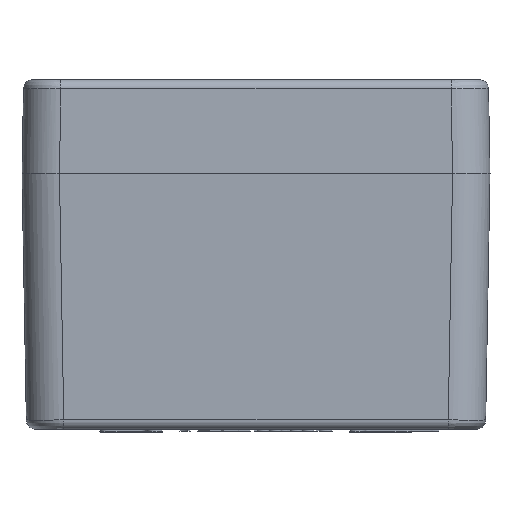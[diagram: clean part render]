
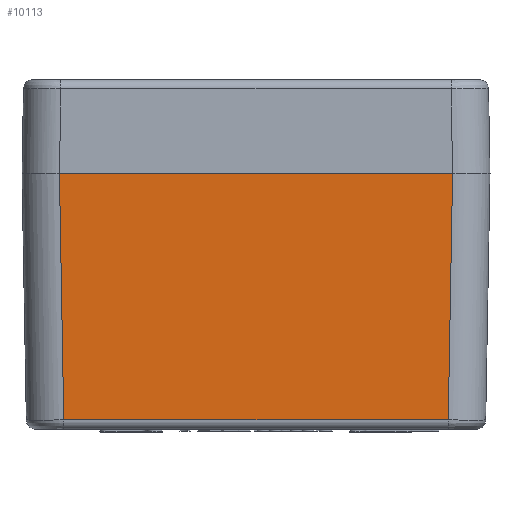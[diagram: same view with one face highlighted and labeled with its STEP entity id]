
A CAD part, left-side view. The second image highlights one B-rep face of the part: STEP entity #10113.
In plain terms, the highlighted planar face has unit normal (-1, 0, -0.018).
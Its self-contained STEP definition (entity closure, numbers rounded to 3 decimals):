
#1122 = DIRECTION ( 'NONE',  ( 0.017, 0.017, -1. ) ) ;
#3788 = VECTOR ( 'NONE', #18735, 1000. ) ;
#4582 = EDGE_CURVE ( 'NONE', #31239, #34014, #24787, .T. ) ;
#7511 = VECTOR ( 'NONE', #21265, 1000. ) ;
#8092 = PLANE ( 'NONE',  #25473 ) ;
#8317 = ORIENTED_EDGE ( 'NONE', *, *, #4582, .F. ) ;
#10113 = ADVANCED_FACE ( 'NONE', ( #38512 ), #8092, .T. ) ;
#11961 = LINE ( 'NONE', #34945, #21239 ) ;
#14149 = EDGE_LOOP ( 'NONE', ( #28052, #27916, #37294, #8317 ) ) ;
#14717 = CARTESIAN_POINT ( 'NONE',  ( -80., 31.501, 0. ) ) ;
#14722 = CARTESIAN_POINT ( 'NONE',  ( -80., 31.501, 0. ) ) ;
#17166 = DIRECTION ( 'NONE',  ( 0., 1., 0. ) ) ;
#17814 = LINE ( 'NONE', #14722, #7511 ) ;
#18735 = DIRECTION ( 'NONE',  ( 0., 1., 0. ) ) ;
#19757 = CARTESIAN_POINT ( 'NONE',  ( -79.31, 37.5, -39.526 ) ) ;
#21239 = VECTOR ( 'NONE', #1122, 1000. ) ;
#21265 = DIRECTION ( 'NONE',  ( 0.017, -0.017, -1. ) ) ;
#21510 = VECTOR ( 'NONE', #17166, 1000. ) ;
#24413 = CARTESIAN_POINT ( 'NONE',  ( -79.31, 30.811, -39.526 ) ) ;
#24787 = LINE ( 'NONE', #19757, #21510 ) ;
#25473 = AXIS2_PLACEMENT_3D ( 'NONE', #37764, #32148, #35132 ) ;
#26388 = VERTEX_POINT ( 'NONE', #14717 ) ;
#26431 = VERTEX_POINT ( 'NONE', #26868 ) ;
#26868 = CARTESIAN_POINT ( 'NONE',  ( -80., -31.501, 0. ) ) ;
#27101 = LINE ( 'NONE', #27856, #3788 ) ;
#27856 = CARTESIAN_POINT ( 'NONE',  ( -80., 37.5, 0. ) ) ;
#27916 = ORIENTED_EDGE ( 'NONE', *, *, #37370, .T. ) ;
#28052 = ORIENTED_EDGE ( 'NONE', *, *, #33219, .F. ) ;
#31239 = VERTEX_POINT ( 'NONE', #36990 ) ;
#32148 = DIRECTION ( 'NONE',  ( -1., 0., -0.017 ) ) ;
#33219 = EDGE_CURVE ( 'NONE', #26431, #31239, #11961, .T. ) ;
#34014 = VERTEX_POINT ( 'NONE', #24413 ) ;
#34945 = CARTESIAN_POINT ( 'NONE',  ( -79.979, -31.48, -1.204 ) ) ;
#35132 = DIRECTION ( 'NONE',  ( -0.017, 0., 1. ) ) ;
#36773 = EDGE_CURVE ( 'NONE', #26388, #34014, #17814, .T. ) ;
#36990 = CARTESIAN_POINT ( 'NONE',  ( -79.31, -30.811, -39.526 ) ) ;
#37294 = ORIENTED_EDGE ( 'NONE', *, *, #36773, .T. ) ;
#37370 = EDGE_CURVE ( 'NONE', #26431, #26388, #27101, .T. ) ;
#37764 = CARTESIAN_POINT ( 'NONE',  ( -80., 37.5, 0. ) ) ;
#38512 = FACE_OUTER_BOUND ( 'NONE', #14149, .T. ) ;
